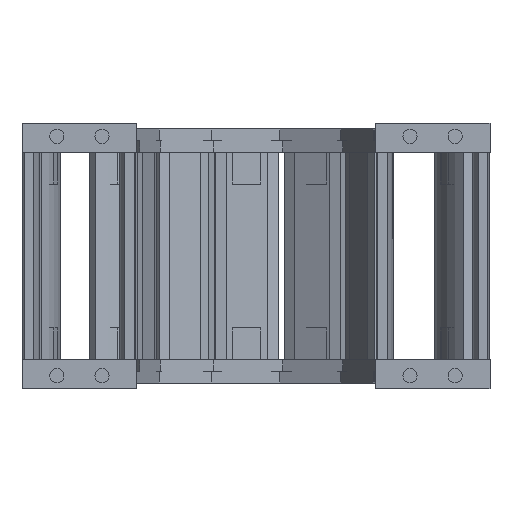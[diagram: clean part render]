
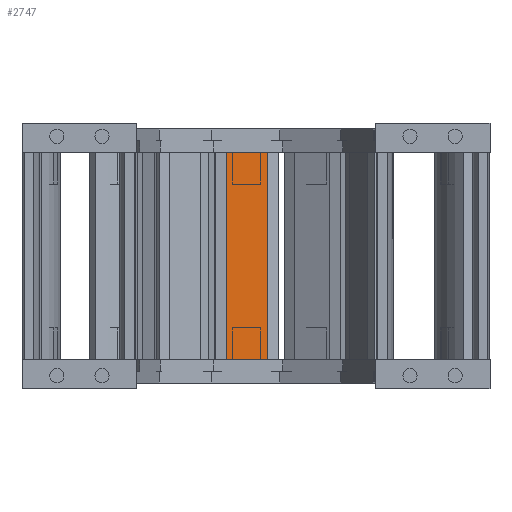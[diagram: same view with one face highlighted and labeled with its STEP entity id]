
A CAD part, left-side view. The second image highlights one B-rep face of the part: STEP entity #2747.
In plain terms, the highlighted planar face has unit normal (-0.996, -0.093, 0) as drawn and (0, -1, 0) by its records, which use the part's own axes.
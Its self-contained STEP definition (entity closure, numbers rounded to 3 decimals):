
#2634=DIRECTION('',(0.,0.,-1.));
#2635=VECTOR('',#2634,117.4);
#2636=CARTESIAN_POINT('',(-11.5,-61.,37.5));
#2637=LINE('',#2636,#2635);
#2651=DIRECTION('',(1.,0.,0.));
#2652=VECTOR('',#2651,23.);
#2653=CARTESIAN_POINT('',(-11.5,-61.,37.5));
#2654=LINE('',#2653,#2652);
#2684=DIRECTION('',(-1.,0.,0.));
#2685=VECTOR('',#2684,23.);
#2686=CARTESIAN_POINT('',(11.5,-61.,-79.9));
#2687=LINE('',#2686,#2685);
#2700=DIRECTION('',(0.,0.,-1.));
#2701=VECTOR('',#2700,117.4);
#2702=CARTESIAN_POINT('',(11.5,-61.,37.5));
#2703=LINE('',#2702,#2701);
#2714=CARTESIAN_POINT('',(11.5,-61.,-79.9));
#2715=VERTEX_POINT('',#2714);
#2716=CARTESIAN_POINT('',(-11.5,-61.,-79.9));
#2717=VERTEX_POINT('',#2716);
#2726=CARTESIAN_POINT('',(11.5,-61.,37.5));
#2727=VERTEX_POINT('',#2726);
#2730=CARTESIAN_POINT('',(-11.5,-61.,37.5));
#2731=VERTEX_POINT('',#2730);
#2732=CARTESIAN_POINT('',(15.5,-61.,-79.9));
#2733=DIRECTION('',(0.,1.,0.));
#2734=DIRECTION('',(-1.,0.,0.));
#2735=AXIS2_PLACEMENT_3D('',#2732,#2733,#2734);
#2736=PLANE('',#2735);
#2738=ORIENTED_EDGE('',*,*,#2737,.F.);
#2740=ORIENTED_EDGE('',*,*,#2739,.T.);
#2742=ORIENTED_EDGE('',*,*,#2741,.T.);
#2744=ORIENTED_EDGE('',*,*,#2743,.T.);
#2745=EDGE_LOOP('',(#2738,#2740,#2742,#2744));
#2746=FACE_OUTER_BOUND('',#2745,.F.);
#2747=ADVANCED_FACE('',(#2746),#2736,.F.);
#2737=EDGE_CURVE('',#2731,#2717,#2637,.T.);
#2739=EDGE_CURVE('',#2731,#2727,#2654,.T.);
#2741=EDGE_CURVE('',#2727,#2715,#2703,.T.);
#2743=EDGE_CURVE('',#2715,#2717,#2687,.T.);
